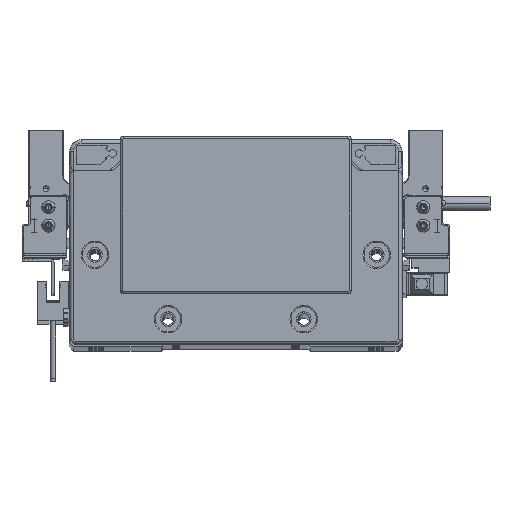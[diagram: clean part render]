
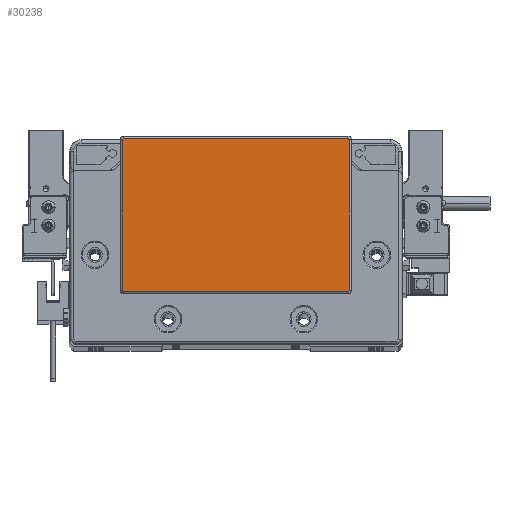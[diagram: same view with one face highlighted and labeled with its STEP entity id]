
A CAD part, top view. The second image highlights one B-rep face of the part: STEP entity #30238.
In plain terms, the highlighted planar face has unit normal (0, 0, 1) as drawn and (0, 0, -1) by its records, which use the part's own axes.
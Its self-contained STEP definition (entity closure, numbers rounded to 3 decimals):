
#1264 = CARTESIAN_POINT ( 'NONE',  ( -48.75, -21.8, -2. ) ) ;
#5627 = VECTOR ( 'NONE', #8905, 1000. ) ;
#8690 = LINE ( 'NONE', #37707, #73193 ) ;
#8905 = DIRECTION ( 'NONE',  ( 0., 1., 0. ) ) ;
#9128 = EDGE_CURVE ( 'NONE', #48874, #56167, #84004, .T. ) ;
#9703 = CARTESIAN_POINT ( 'NONE',  ( 49.25, -21.8, -2. ) ) ;
#12559 = CIRCLE ( 'NONE', #77922, 0.5 ) ;
#12855 = VERTEX_POINT ( 'NONE', #77448 ) ;
#16456 = DIRECTION ( 'NONE',  ( 0., 0., -1. ) ) ;
#16495 = CARTESIAN_POINT ( 'NONE',  ( -49.25, 43.8, -2. ) ) ;
#16987 = VECTOR ( 'NONE', #62123, 1000. ) ;
#19418 = DIRECTION ( 'NONE',  ( -1., 0., 0. ) ) ;
#19589 = PLANE ( 'NONE',  #60693 ) ;
#19995 = ORIENTED_EDGE ( 'NONE', *, *, #28110, .T. ) ;
#21288 = DIRECTION ( 'NONE',  ( 0., 0., -1. ) ) ;
#21537 = CARTESIAN_POINT ( 'NONE',  ( 49.25, -21.8, -2. ) ) ;
#22641 = DIRECTION ( 'NONE',  ( 0., 0., -1. ) ) ;
#23719 = ORIENTED_EDGE ( 'NONE', *, *, #25864, .T. ) ;
#25732 = EDGE_CURVE ( 'NONE', #12855, #58543, #29623, .T. ) ;
#25864 = EDGE_CURVE ( 'NONE', #31308, #59307, #8690, .T. ) ;
#28110 = EDGE_CURVE ( 'NONE', #93311, #48874, #37032, .T. ) ;
#29623 = LINE ( 'NONE', #21537, #89887 ) ;
#30238 = ADVANCED_FACE ( 'NONE', ( #55347 ), #19589, .T. ) ;
#31308 = VERTEX_POINT ( 'NONE', #40248 ) ;
#32760 = AXIS2_PLACEMENT_3D ( 'NONE', #72639, #22641, #50747 ) ;
#33070 = CARTESIAN_POINT ( 'NONE',  ( 48.75, 44.3, -2. ) ) ;
#37032 = CIRCLE ( 'NONE', #79641, 0.5 ) ;
#37707 = CARTESIAN_POINT ( 'NONE',  ( -48.75, -22.3, -2. ) ) ;
#40124 = VERTEX_POINT ( 'NONE', #51135 ) ;
#40248 = CARTESIAN_POINT ( 'NONE',  ( 48.75, -22.3, -2. ) ) ;
#41400 = EDGE_CURVE ( 'NONE', #40124, #93311, #58913, .T. ) ;
#43297 = ORIENTED_EDGE ( 'NONE', *, *, #25732, .T. ) ;
#43442 = DIRECTION ( 'NONE',  ( 0., -1., 0. ) ) ;
#45714 = ORIENTED_EDGE ( 'NONE', *, *, #57195, .T. ) ;
#46151 = CARTESIAN_POINT ( 'NONE',  ( -48.75, 44.3, -2. ) ) ;
#46508 = DIRECTION ( 'NONE',  ( -1., 0., 0. ) ) ;
#48874 = VERTEX_POINT ( 'NONE', #46151 ) ;
#48928 = CARTESIAN_POINT ( 'NONE',  ( 48.75, 43.8, -2. ) ) ;
#50168 = ORIENTED_EDGE ( 'NONE', *, *, #82833, .T. ) ;
#50747 = DIRECTION ( 'NONE',  ( -1., 0., 0. ) ) ;
#51135 = CARTESIAN_POINT ( 'NONE',  ( -49.25, -21.8, -2. ) ) ;
#51835 = EDGE_LOOP ( 'NONE', ( #43297, #50168, #23719, #70072, #58840, #19995, #75532, #45714 ) ) ;
#53686 = CARTESIAN_POINT ( 'NONE',  ( -48.75, 43.8, -2. ) ) ;
#55347 = FACE_OUTER_BOUND ( 'NONE', #51835, .T. ) ;
#56167 = VERTEX_POINT ( 'NONE', #68455 ) ;
#57195 = EDGE_CURVE ( 'NONE', #56167, #12855, #74731, .T. ) ;
#57218 = CARTESIAN_POINT ( 'NONE',  ( 0., 0., -2. ) ) ;
#58543 = VERTEX_POINT ( 'NONE', #9703 ) ;
#58840 = ORIENTED_EDGE ( 'NONE', *, *, #41400, .T. ) ;
#58913 = LINE ( 'NONE', #16495, #5627 ) ;
#59307 = VERTEX_POINT ( 'NONE', #79813 ) ;
#59330 = DIRECTION ( 'NONE',  ( -1., 0., 0. ) ) ;
#60693 = AXIS2_PLACEMENT_3D ( 'NONE', #57218, #78610, #71479 ) ;
#62123 = DIRECTION ( 'NONE',  ( 1., 0., 0. ) ) ;
#64701 = CIRCLE ( 'NONE', #32760, 0.5 ) ;
#66754 = DIRECTION ( 'NONE',  ( -1., 0., 0. ) ) ;
#68455 = CARTESIAN_POINT ( 'NONE',  ( 48.75, 44.3, -2. ) ) ;
#69880 = CARTESIAN_POINT ( 'NONE',  ( -49.25, 43.8, -2. ) ) ;
#70072 = ORIENTED_EDGE ( 'NONE', *, *, #71410, .T. ) ;
#71410 = EDGE_CURVE ( 'NONE', #59307, #40124, #12559, .T. ) ;
#71479 = DIRECTION ( 'NONE',  ( -1., 0., 0. ) ) ;
#72639 = CARTESIAN_POINT ( 'NONE',  ( 48.75, -21.8, -2. ) ) ;
#73193 = VECTOR ( 'NONE', #66754, 1000. ) ;
#73230 = AXIS2_PLACEMENT_3D ( 'NONE', #48928, #21288, #19418 ) ;
#74731 = CIRCLE ( 'NONE', #73230, 0.5 ) ;
#75532 = ORIENTED_EDGE ( 'NONE', *, *, #9128, .T. ) ;
#77448 = CARTESIAN_POINT ( 'NONE',  ( 49.25, 43.8, -2. ) ) ;
#77922 = AXIS2_PLACEMENT_3D ( 'NONE', #1264, #16456, #59330 ) ;
#78610 = DIRECTION ( 'NONE',  ( 0., 0., -1. ) ) ;
#79641 = AXIS2_PLACEMENT_3D ( 'NONE', #53686, #82697, #46508 ) ;
#79813 = CARTESIAN_POINT ( 'NONE',  ( -48.75, -22.3, -2. ) ) ;
#82697 = DIRECTION ( 'NONE',  ( 0., 0., -1. ) ) ;
#82833 = EDGE_CURVE ( 'NONE', #58543, #31308, #64701, .T. ) ;
#84004 = LINE ( 'NONE', #33070, #16987 ) ;
#89887 = VECTOR ( 'NONE', #43442, 1000. ) ;
#93311 = VERTEX_POINT ( 'NONE', #69880 ) ;
